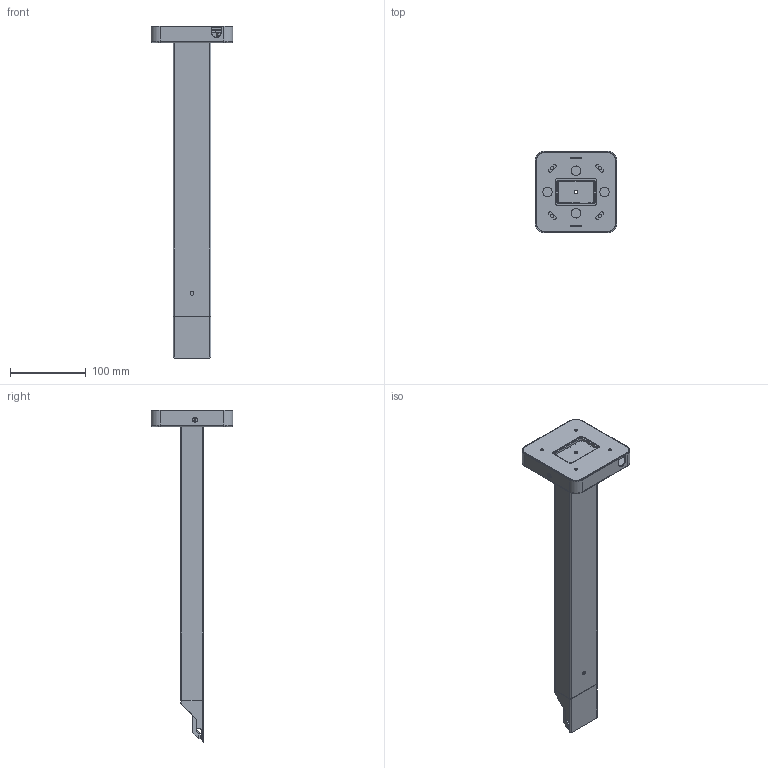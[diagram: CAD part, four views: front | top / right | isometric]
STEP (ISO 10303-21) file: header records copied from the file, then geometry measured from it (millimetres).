
FILE_DESCRIPTION (( 'STEP AP203' ), '1' );
FILE_NAME ('WALL ARM 18IN.STEP', '2023-05-25T19:37:18', ( '' ), ( '' ), 'SwSTEP 2.0', 'SolidWorks 2022', '' );
FILE_SCHEMA (( 'CONFIG_CONTROL_DESIGN' ));
Length unit declared in the file: millimetre
Products named in the file (19): PLA-000078-00; WALL ARM 18IN; GSK-000106-00; NUT-000074-00_NUT-000074-00; ASY-006791-00; BKT-000511-00; CVR-000839-00; GSK-000107-00; SCW-000538-00_SCW-000538-00; MCP-000396-00; PLA-000089-00; ASY-006788-XX_ASY-006788-3Y (18IN); HLD-000105-XX_HLD-000105-02; GSK-000109-00; BKT-000519-00; SCW-000539-00_SCW-000539-00; BAS-000024-00; ASY-006795-00; SCW-000533-00
Assembly tree (32 placements, depth 3):
  WALL ARM 18IN
    ASY-006788-XX_ASY-006788-3Y (18IN)
      BKT-000511-00
      HLD-000105-XX_HLD-000105-02
      PLA-000089-00  x4
    MCP-000396-00
    ASY-006795-00
      PLA-000078-00
      GSK-000107-00
    SCW-000539-00_SCW-000539-00  x4
    ASY-006791-00
      BAS-000024-00
      SCW-000533-00  x4
      BKT-000519-00  x2
    CVR-000839-00
    NUT-000074-00_NUT-000074-00  x4
    GSK-000106-00
    SCW-000538-00_SCW-000538-00  x2
    GSK-000109-00
Bounding box: 107.5 x 107.5 x 436.9 mm (x, y, z)
Volume: 211054.2 mm3; surface area: 242247.9 mm2
Topology: 29 solids, 37 shells, 1449 faces, 3730 edges, 2361 vertices
Faces by surface type: cylinder 586, plane 405, cone 232, bspline 156, torus 70
Entity records: 37661 total; most frequent: CARTESIAN_POINT 15927, ORIENTED_EDGE 4129, DIRECTION 4024, EDGE_CURVE 2070, AXIS2_PLACEMENT_3D 1514, VERTEX_POINT 1325, VECTOR 996, LINE 996
